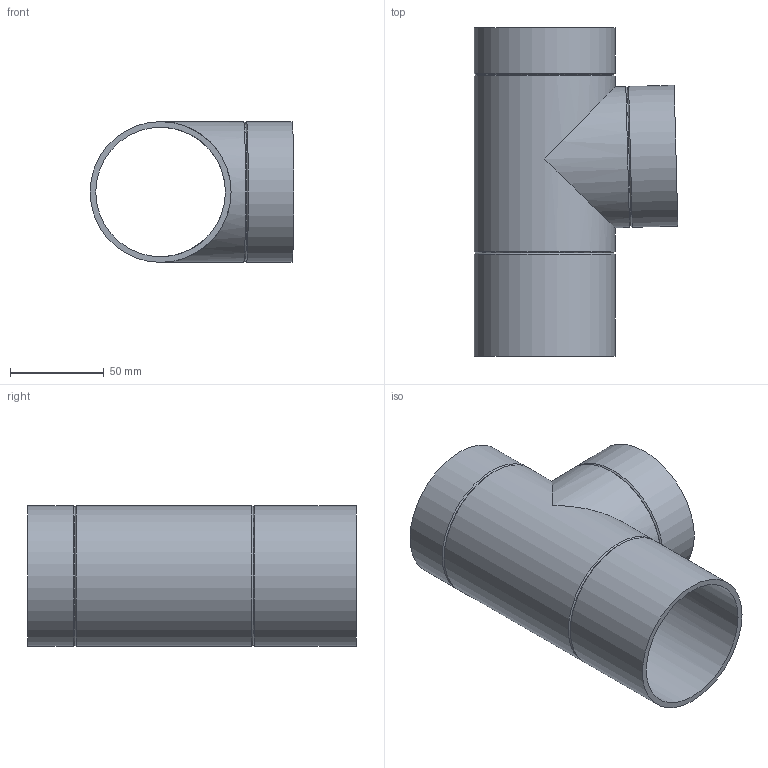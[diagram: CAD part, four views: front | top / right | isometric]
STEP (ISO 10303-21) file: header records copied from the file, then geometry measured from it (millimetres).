
FILE_DESCRIPTION(/* description */ (''),/* implementation_level */ '2;1');
FILE_NAME(/* name */ 'Z:\Geberit\Export\NewStep\365175.stp',/* time_stamp */ '2014-04-02T07:33:54+02:00',/* author */ ('nelson'),/* organization */ (''),/* preprocessor_version */ 'ST-DEVELOPER v15.2',/* originating_system */ 'Autodesk Inventor 2014',/* authorisation */ '');
FILE_SCHEMA (('AUTOMOTIVE_DESIGN { 1 0 10303 214 3 1 1 }'));
Length unit declared in the file: millimetre
Products named in the file (1): 365175
Bounding box: 108.46 x 175 x 75 mm (x, y, z)
Volume: 134725.4 mm3; surface area: 92516.2 mm2
Topology: 1 solids, 1 shells, 16 faces, 39 edges, 25 vertices
Faces by surface type: cylinder 7, cone 6, plane 3
Full cylindrical faces by diameter (mm): 69 x2, 75 x5
Entity records: 399 total; most frequent: DIRECTION 72, CARTESIAN_POINT 55, ORIENTED_EDGE 38, AXIS2_PLACEMENT_3D 36, EDGE_LOOP 34, FACE_BOUND 22, VERTEX_POINT 19, EDGE_CURVE 19
